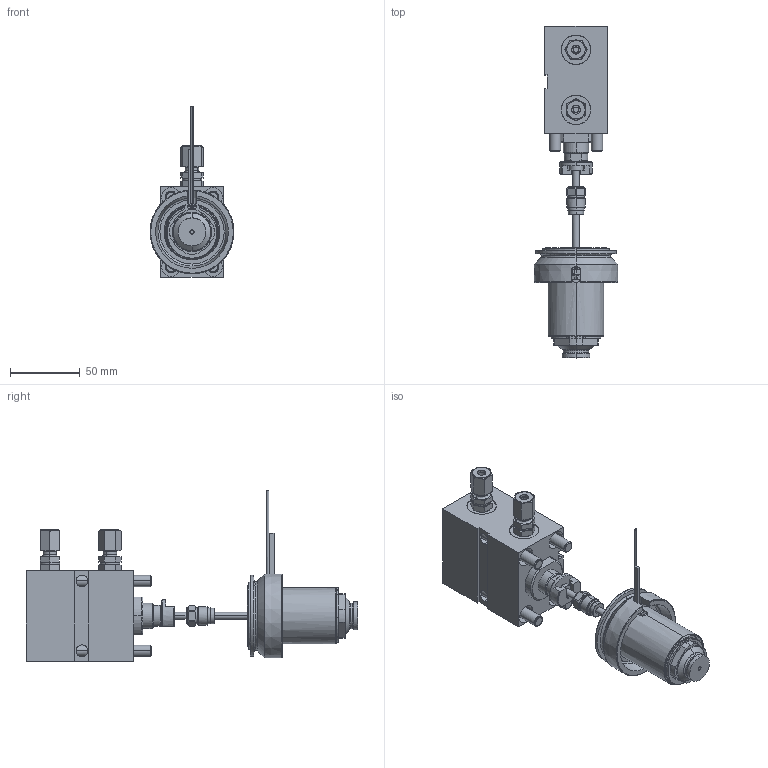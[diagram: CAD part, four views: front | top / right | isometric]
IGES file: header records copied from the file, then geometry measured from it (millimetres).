
Start section: Write IGES format                                    datakit 2008 (c)
Global section: file name: Unknown; native system: DATAKIT Converter; preprocessor: Unknown; author: Unknown; organization: Unknown; date: 950613.180003; units: millimetre
Bounding box: 60 x 237.5 x 122.15 mm (x, y, z)
Surface area: 127485 mm2 (no closed solid volume)
Topology: 0 solids, 0 shells, 800 faces, 3612 edges, 3594 vertices
Faces by surface type: revolution 516, bspline 284
